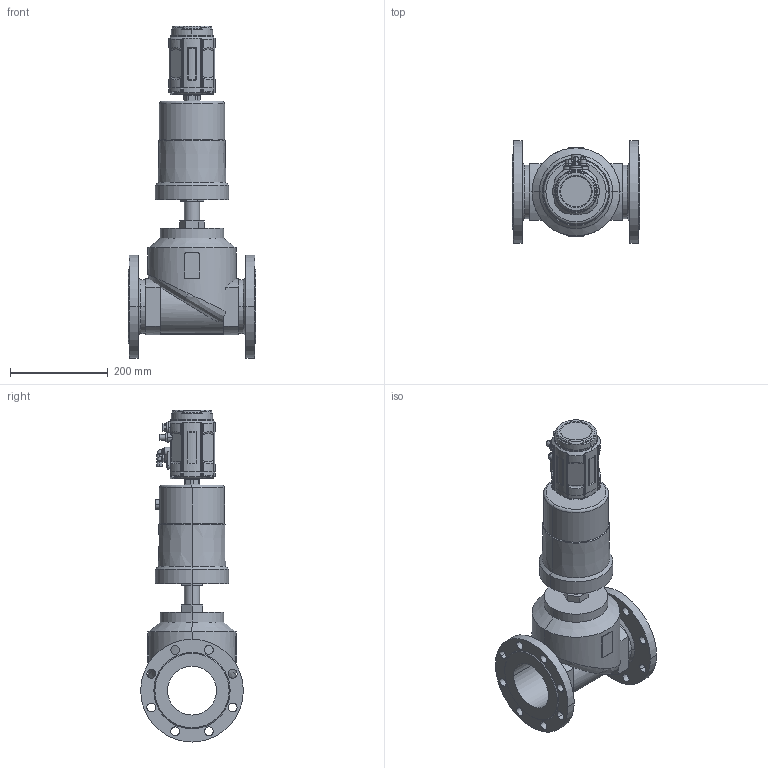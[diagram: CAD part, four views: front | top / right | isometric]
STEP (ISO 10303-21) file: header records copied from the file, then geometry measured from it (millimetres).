
FILE_DESCRIPTION((''),'2;1');
FILE_NAME('PV_F_EPP_P_2_ASM','2025-03-06T',('USER'),(''),'PRO/ENGINEER BY PARAMETRIC TECHNOLOGY CORPORATION, 2011220','PRO/ENGINEER BY PARAMETRIC TECHNOLOGY CORPORATION, 2011220','');
FILE_SCHEMA(('CONFIG_CONTROL_DESIGN'));
Length unit declared in the file: millimetre
Products named in the file (12): KLAPAN; PNEVMOPRIVOD; KOLCO_52_GOST13943; POZICIONER_VERX; POZICIONER_NIZ; SHLYAPKA_VINT; DET; DET_2; SHLYAPKA_VINT_2; DET_3; SB_POZICIONER_ASM; PV_F_EPP_P_2_ASM
Assembly tree (18 placements, depth 3):
  PV_F_EPP_P_2_ASM
    KLAPAN
    PNEVMOPRIVOD
    KOLCO_52_GOST13943
    SB_POZICIONER_ASM
      POZICIONER_VERX
      POZICIONER_NIZ
      SHLYAPKA_VINT  x4
      DET
      DET_2
      SHLYAPKA_VINT_2  x4
      DET_3  x2
Bounding box: 260 x 210 x 678.5 mm (x, y, z)
Volume: 8260642.9 mm3; surface area: 600445.3 mm2
Topology: 17 solids, 22 shells, 835 faces, 2097 edges, 1369 vertices
Faces by surface type: plane 392, cylinder 346, cone 49, torus 24, bspline 12, sphere 12
Entity records: 22607 total; most frequent: CARTESIAN_POINT 5451, DIRECTION 3617, ORIENTED_EDGE 3448, EDGE_CURVE 1734, AXIS2_PLACEMENT_3D 1373, VERTEX_POINT 1134, VECTOR 871, LINE 871
